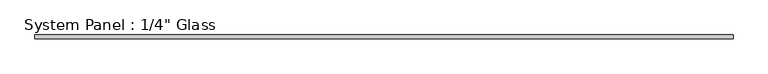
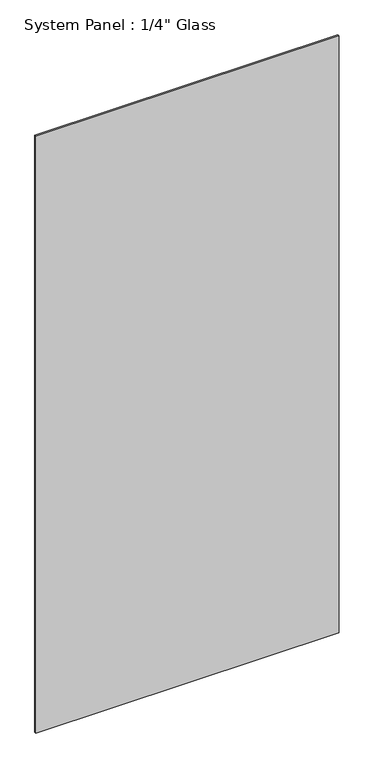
"""IFC4 building model written with IfcOpenShell, lengths in millimetres: plate geometry."""

from ifc_helpers import new_model, si_unit, origin, origin_with_axes, place, context, project, spatial, polyline, outline, extrude, source, transform, mapped, element, save


def plate_e0bd23ee(model_context):
    return source(origin(), model_context, "Body", "SweptSolid", [
        extrude(outline(polyline([(598.574085, -3.175), (-598.574085, -3.175), (-598.574085, 3.175), (598.574085, 3.175), (598.574085, -3.175)])), origin_with_axes(), (0.0, 0.0, 1.0), 2489.2),
    ])


if __name__ == "__main__":
    model = new_model("IFC4")
    model_context = context("Model", 3, world=origin())
    ifc_project = project(units=[si_unit("LENGTHUNIT", "METRE", prefix="MILLI")], contexts=[model_context])
    site = spatial("IfcSite", under=ifc_project)
    building = spatial("IfcBuilding", under=site)
    placement = place(None, origin())
    plate_shape = plate_e0bd23ee(model_context)
    element("IfcPlate", 1, ObjectType="System Panel : 1/4\" Glass", at=placement, inside=building, context=model_context, shape_type="MappedRepresentation", body=[
        mapped(plate_shape, transform((0.0, 0.0, 0.0), x_axis=(1.0, 0.0, 0.0), y_axis=(0.0, 1.0, 0.0), z_axis=(0.0, 0.0, 1.0))),
    ])
    save(model, "model.ifc")
